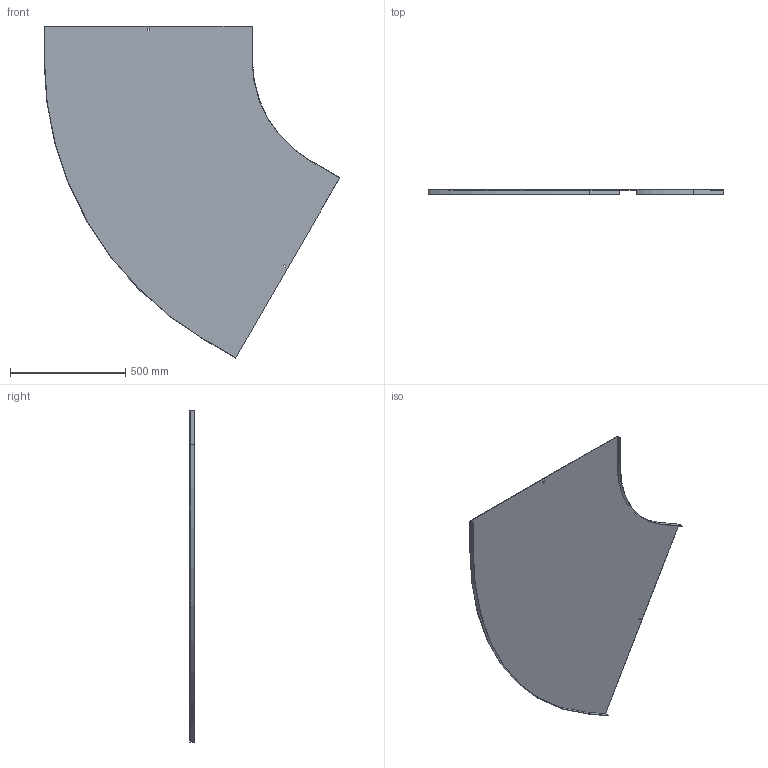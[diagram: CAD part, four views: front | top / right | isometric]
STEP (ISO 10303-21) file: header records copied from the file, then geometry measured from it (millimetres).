
FILE_DESCRIPTION (( 'STEP AP214' ), '1' );
FILE_NAME ('13N5R900.step', '2025-02-21T10:51:58', ( '' ), ( '' ), 'SwSTEP 2.0', 'SolidWorks 2023', '' );
FILE_SCHEMA (( 'AUTOMOTIVE_DESIGN' ));
Length unit declared in the file: millimetre
Products named in the file (1): 13N5R900
Bounding box: 1282.15 x 20 x 1438.73 mm (x, y, z)
Volume: 1825545.6 mm3; surface area: 2440858.3 mm2
Topology: 1 solids, 1 shells, 26 faces, 72 edges, 48 vertices
Faces by surface type: plane 22, cylinder 4
Entity records: 855 total; most frequent: CARTESIAN_POINT 147, ORIENTED_EDGE 144, DIRECTION 134, EDGE_CURVE 72, VECTOR 64, LINE 64, VERTEX_POINT 48, AXIS2_PLACEMENT_3D 35
